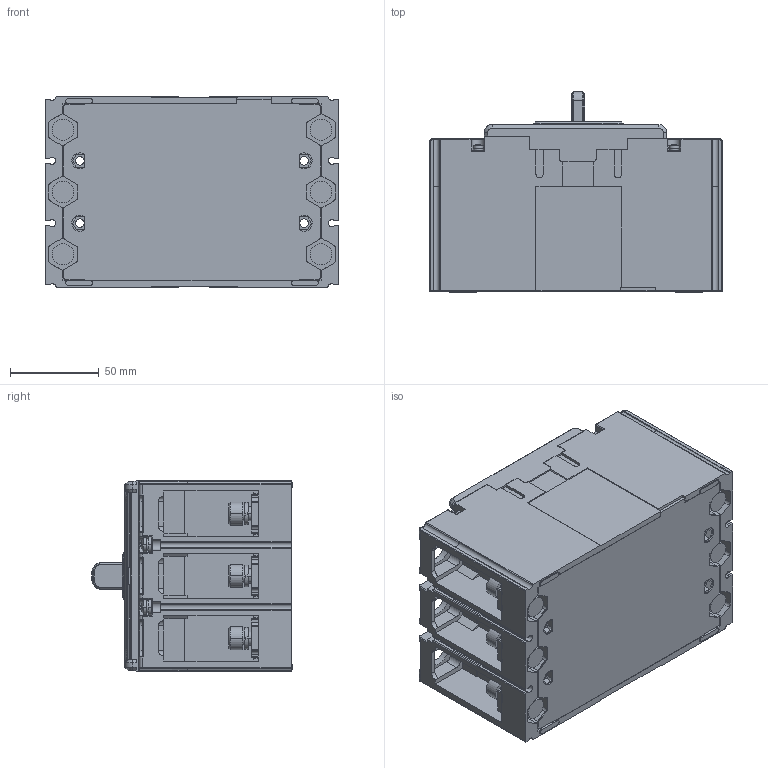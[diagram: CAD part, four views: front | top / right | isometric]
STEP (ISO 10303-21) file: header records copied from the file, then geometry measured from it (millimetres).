
FILE_DESCRIPTION((''),'2;1');
FILE_NAME('CDM6EI-250_3P_ASM','2019-07-18T',('gang.sun'),(''),'PRO/ENGINEER BY PARAMETRIC TECHNOLOGY CORPORATION, 2015440','PRO/ENGINEER BY PARAMETRIC TECHNOLOGY CORPORATION, 2015440','');
FILE_SCHEMA(('CONFIG_CONTROL_DESIGN'));
Products named in the file (10): MSBR-9; MSBR-8; MSBR-7; MSBR-6; MSBR-5; MSBR-4; MSBR-3; MSBR-2; MSBR-1; CDM6EI-250_3P_ASM
Assembly tree (9 placements, depth 2):
  CDM6EI-250_3P_ASM
    MSBR-9
    MSBR-8
    MSBR-7
    MSBR-6
    MSBR-5
    MSBR-4
    MSBR-3
    MSBR-2
    MSBR-1
Bounding box: 165 x 112.41 x 107 mm (x, y, z)
Volume: 1292745.2 mm3; surface area: 187752.4 mm2
Topology: 9 solids, 19 shells, 3540 faces, 9648 edges, 6138 vertices
Faces by surface type: plane 1987, cylinder 961, cone 186, extrusion 158, torus 107, sphere 100, bspline 41
Entity records: 115332 total; most frequent: CARTESIAN_POINT 25108, ORIENTED_EDGE 19114, DIRECTION 18599, EDGE_CURVE 9557, VECTOR 6203, AXIS2_PLACEMENT_3D 6198, VERTEX_POINT 6138, LINE 6045
